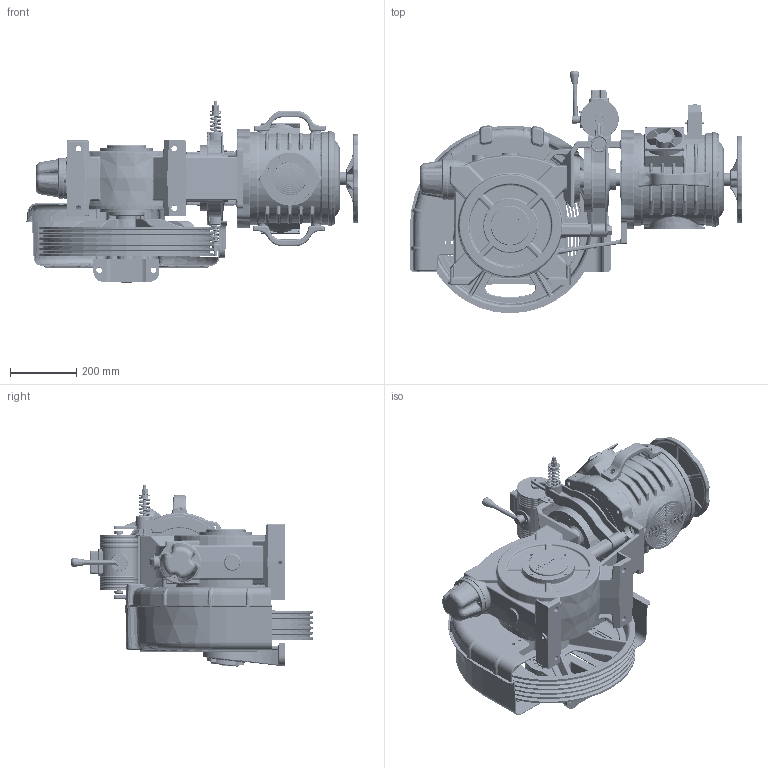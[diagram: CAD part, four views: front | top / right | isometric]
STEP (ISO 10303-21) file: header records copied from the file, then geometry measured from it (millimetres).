
FILE_DESCRIPTION (( 'STEP AP214' ), '1' );
FILE_NAME ('ELT5505021.STEP', '2026-01-16T08:41:50', ( '' ), ( '' ), 'SwSTEP 2.0', 'SolidWorks 2023', '' );
FILE_SCHEMA (( 'AUTOMOTIVE_DESIGN' ));
Length unit declared in the file: millimetre
Products named in the file (1): ELT5505021
Bounding box: 1005.73 x 734.43 x 549.28 mm (x, y, z)
Volume: 46923299.1 mm3; surface area: 6221260 mm2
Topology: 141 solids, 164 shells, 9849 faces, 23804 edges, 13941 vertices
Faces by surface type: cylinder 3066, bspline 2318, plane 2165, torus 1123, cone 770, sphere 407
Entity records: 414790 total; most frequent: CARTESIAN_POINT 201014, ORIENTED_EDGE 46390, DIRECTION 42164, EDGE_CURVE 23195, AXIS2_PLACEMENT_3D 17427, VERTEX_POINT 13907, EDGE_LOOP 10892, CIRCLE 9895
